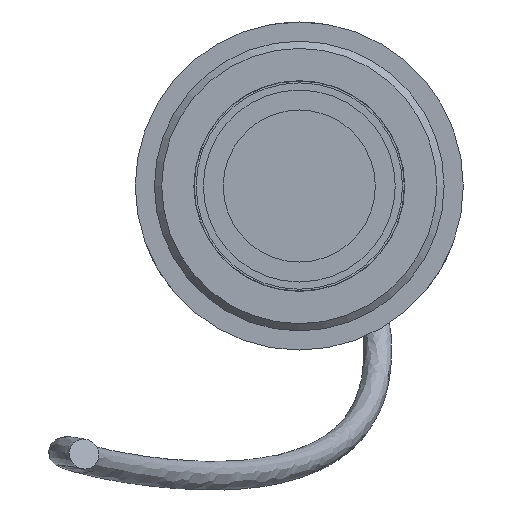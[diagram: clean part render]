
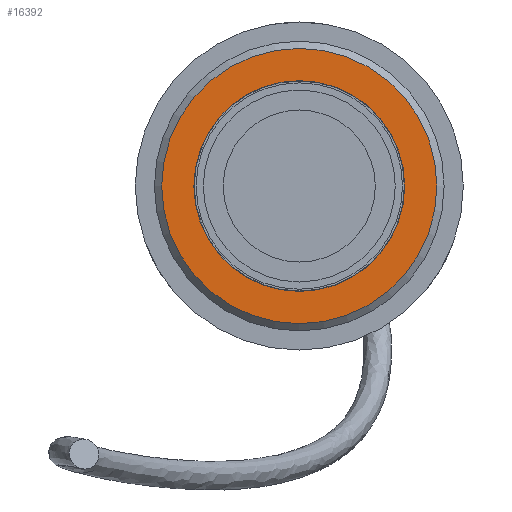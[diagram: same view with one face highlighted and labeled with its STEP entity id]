
A CAD part, front view. The second image highlights one B-rep face of the part: STEP entity #16392.
In plain terms, the highlighted planar face has unit normal (0, -1, 0).
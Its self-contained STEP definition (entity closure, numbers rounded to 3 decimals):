
#313=FACE_BOUND('',#2717,.T.);
#766=PLANE('',#18168);
#1762=FACE_OUTER_BOUND('',#2716,.T.);
#2716=EDGE_LOOP('',(#14372));
#2717=EDGE_LOOP('',(#14373,#14374));
#6436=CIRCLE('',#18167,19.);
#6437=CIRCLE('',#18169,14.55);
#6438=CIRCLE('',#18170,14.55);
#7867=VERTEX_POINT('',#30607);
#7868=VERTEX_POINT('',#30611);
#7869=VERTEX_POINT('',#30612);
#10081=EDGE_CURVE('',#7867,#7867,#6436,.T.);
#10082=EDGE_CURVE('',#7868,#7869,#6437,.T.);
#10083=EDGE_CURVE('',#7869,#7868,#6438,.T.);
#14372=ORIENTED_EDGE('',*,*,#10081,.F.);
#14373=ORIENTED_EDGE('',*,*,#10082,.T.);
#14374=ORIENTED_EDGE('',*,*,#10083,.T.);
#16392=ADVANCED_FACE('',(#1762,#313),#766,.T.);
#18167=AXIS2_PLACEMENT_3D('',#30609,#22332,#22333);
#18168=AXIS2_PLACEMENT_3D('',#30610,#22334,#22335);
#18169=AXIS2_PLACEMENT_3D('',#30613,#22336,#22337);
#18170=AXIS2_PLACEMENT_3D('',#30614,#22338,#22339);
#22332=DIRECTION('center_axis',(0.,1.,0.));
#22333=DIRECTION('ref_axis',(1.,0.,0.));
#22334=DIRECTION('center_axis',(0.,-1.,0.));
#22335=DIRECTION('ref_axis',(0.,0.,-1.));
#22336=DIRECTION('center_axis',(0.,1.,0.));
#22337=DIRECTION('ref_axis',(1.,0.,0.));
#22338=DIRECTION('center_axis',(0.,1.,0.));
#22339=DIRECTION('ref_axis',(1.,0.,0.));
#30607=CARTESIAN_POINT('',(-4.898,-46.,0.));
#30609=CARTESIAN_POINT('Origin',(14.102,-46.,0.));
#30610=CARTESIAN_POINT('Origin',(-5.898,-46.,0.));
#30611=CARTESIAN_POINT('',(-0.448,-46.,0.));
#30612=CARTESIAN_POINT('',(28.652,-46.,0.));
#30613=CARTESIAN_POINT('Origin',(14.102,-46.,0.));
#30614=CARTESIAN_POINT('Origin',(14.102,-46.,0.));
